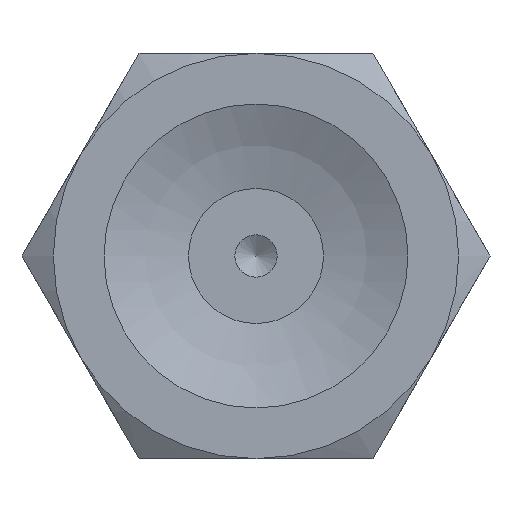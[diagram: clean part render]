
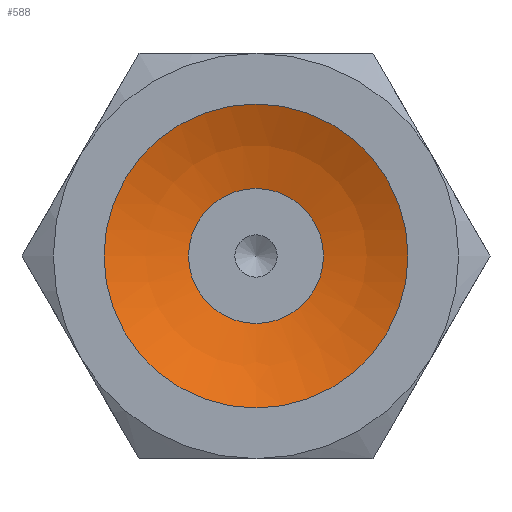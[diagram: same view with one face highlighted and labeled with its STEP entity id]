
A CAD part, front view. The second image highlights one B-rep face of the part: STEP entity #588.
In plain terms, the highlighted spherical face has radius 10.203 mm.
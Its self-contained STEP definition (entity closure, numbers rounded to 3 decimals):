
#588=ADVANCED_FACE('',(#923,#924),#925,.F.);
#923=FACE_OUTER_BOUND('',#1263,.T.);
#924=FACE_OUTER_BOUND('',#1264,.T.);
#925=SPHERICAL_SURFACE('',#1265,10.203);
#1263=EDGE_LOOP('',(#2124));
#1264=EDGE_LOOP('',(#2125));
#1265=AXIS2_PLACEMENT_3D('',#2126,#2127,#2128);
#2124=ORIENTED_EDGE('',*,*,#2352,.T.);
#2125=ORIENTED_EDGE('',*,*,#2365,.F.);
#2126=CARTESIAN_POINT('',(0.,-9.157,0.));
#2127=DIRECTION('',(0.0,-1.0,0.));
#2128=DIRECTION('',(1.0,0.0,0.0));
#2352=EDGE_CURVE('',#2725,#2725,#2726,.T.);
#2365=EDGE_CURVE('',#2751,#2751,#2752,.T.);
#2725=VERTEX_POINT('',#3695);
#2726=CIRCLE('',#3696,4.5);
#2751=VERTEX_POINT('',#3721);
#2752=CIRCLE('',#3722,2.);
#3695=CARTESIAN_POINT('',(0.0,0.,-4.5));
#3696=AXIS2_PLACEMENT_3D('',#4045,#4046,#4047);
#3721=CARTESIAN_POINT('',(0.0,0.848,-2.));
#3722=AXIS2_PLACEMENT_3D('',#4084,#4085,#4086);
#4045=CARTESIAN_POINT('',(0.0,0.,0.0));
#4046=DIRECTION('',(0.0,-1.0,0.));
#4047=DIRECTION('',(0.0,0.,-1.0));
#4084=CARTESIAN_POINT('',(0.0,0.848,0.0));
#4085=DIRECTION('',(0.0,-1.0,0.));
#4086=DIRECTION('',(0.0,0.,-1.0));
